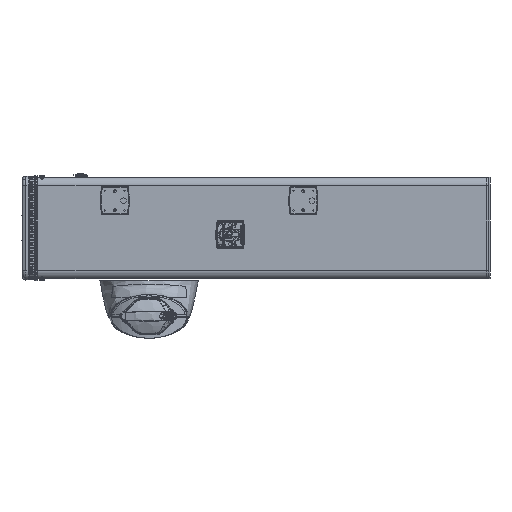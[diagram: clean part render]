
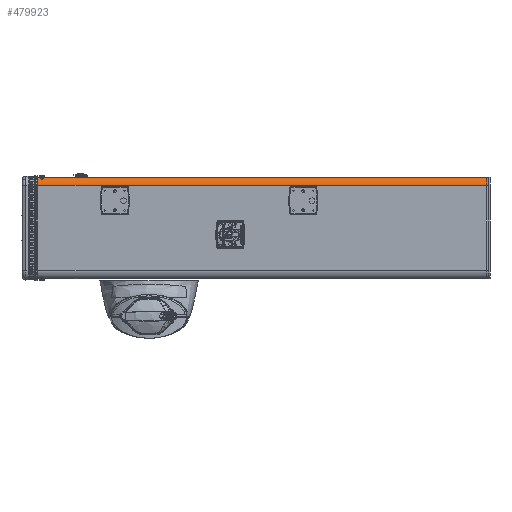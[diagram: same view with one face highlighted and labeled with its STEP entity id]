
A CAD part, left-side view. The second image highlights one B-rep face of the part: STEP entity #479923.
In plain terms, the highlighted cylindrical face has radius 22.5 mm (diameter 45 mm), a partial arc.
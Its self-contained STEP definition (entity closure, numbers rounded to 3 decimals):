
#54214 = CIRCLE ( 'NONE', #251652, 22.5 ) ;
#82054 = ORIENTED_EDGE ( 'NONE', *, *, #408201, .F. ) ;
#93970 = DIRECTION ( 'NONE',  ( 1., 0., 0. ) ) ;
#98206 = VECTOR ( 'NONE', #339548, 1000. ) ;
#103044 = EDGE_LOOP ( 'NONE', ( #82054, #400005, #106921, #188239 ) ) ;
#106921 = ORIENTED_EDGE ( 'NONE', *, *, #516664, .T. ) ;
#111583 = FACE_OUTER_BOUND ( 'NONE', #103044, .T. ) ;
#155386 = VERTEX_POINT ( 'NONE', #350561 ) ;
#161763 = CYLINDRICAL_SURFACE ( 'NONE', #348237, 22.5 ) ;
#164977 = VERTEX_POINT ( 'NONE', #495486 ) ;
#170407 = EDGE_CURVE ( 'NONE', #435827, #164977, #54214, .T. ) ;
#171258 = CARTESIAN_POINT ( 'NONE',  ( -223.5, 300., 270. ) ) ;
#179292 = VECTOR ( 'NONE', #207932, 1000. ) ;
#179655 = CIRCLE ( 'NONE', #285445, 22.5 ) ;
#188239 = ORIENTED_EDGE ( 'NONE', *, *, #359433, .F. ) ;
#198365 = CARTESIAN_POINT ( 'NONE',  ( -223.5, 300., 247.5 ) ) ;
#203982 = VERTEX_POINT ( 'NONE', #512909 ) ;
#207932 = DIRECTION ( 'NONE',  ( 0., -1., 0. ) ) ;
#229731 = LINE ( 'NONE', #444546, #179292 ) ;
#251652 = AXIS2_PLACEMENT_3D ( 'NONE', #198365, #356151, #394688 ) ;
#261503 = CARTESIAN_POINT ( 'NONE',  ( -223.5, -900., 247.5 ) ) ;
#285445 = AXIS2_PLACEMENT_3D ( 'NONE', #261503, #343872, #499866 ) ;
#339548 = DIRECTION ( 'NONE',  ( 0., -1., 0. ) ) ;
#343872 = DIRECTION ( 'NONE',  ( 0., -1., 0. ) ) ;
#348237 = AXIS2_PLACEMENT_3D ( 'NONE', #407730, #400819, #93970 ) ;
#350561 = CARTESIAN_POINT ( 'NONE',  ( -223.5, -900., 270. ) ) ;
#356151 = DIRECTION ( 'NONE',  ( 0., 1., 0. ) ) ;
#359433 = EDGE_CURVE ( 'NONE', #155386, #203982, #179655, .T. ) ;
#363592 = CARTESIAN_POINT ( 'NONE',  ( -246., 300., 247.5 ) ) ;
#394688 = DIRECTION ( 'NONE',  ( 1., 0., 0. ) ) ;
#400005 = ORIENTED_EDGE ( 'NONE', *, *, #170407, .F. ) ;
#400819 = DIRECTION ( 'NONE',  ( 0., -1., 0. ) ) ;
#407730 = CARTESIAN_POINT ( 'NONE',  ( -223.5, 300., 247.5 ) ) ;
#408201 = EDGE_CURVE ( 'NONE', #164977, #155386, #468232, .T. ) ;
#435827 = VERTEX_POINT ( 'NONE', #363592 ) ;
#444546 = CARTESIAN_POINT ( 'NONE',  ( -246., 300., 247.5 ) ) ;
#468232 = LINE ( 'NONE', #171258, #98206 ) ;
#479923 = ADVANCED_FACE ( 'NONE', ( #111583 ), #161763, .T. ) ;
#495486 = CARTESIAN_POINT ( 'NONE',  ( -223.5, 300., 270. ) ) ;
#499866 = DIRECTION ( 'NONE',  ( 1., 0., 0. ) ) ;
#512909 = CARTESIAN_POINT ( 'NONE',  ( -246., -900., 247.5 ) ) ;
#516664 = EDGE_CURVE ( 'NONE', #435827, #203982, #229731, .T. ) ;
